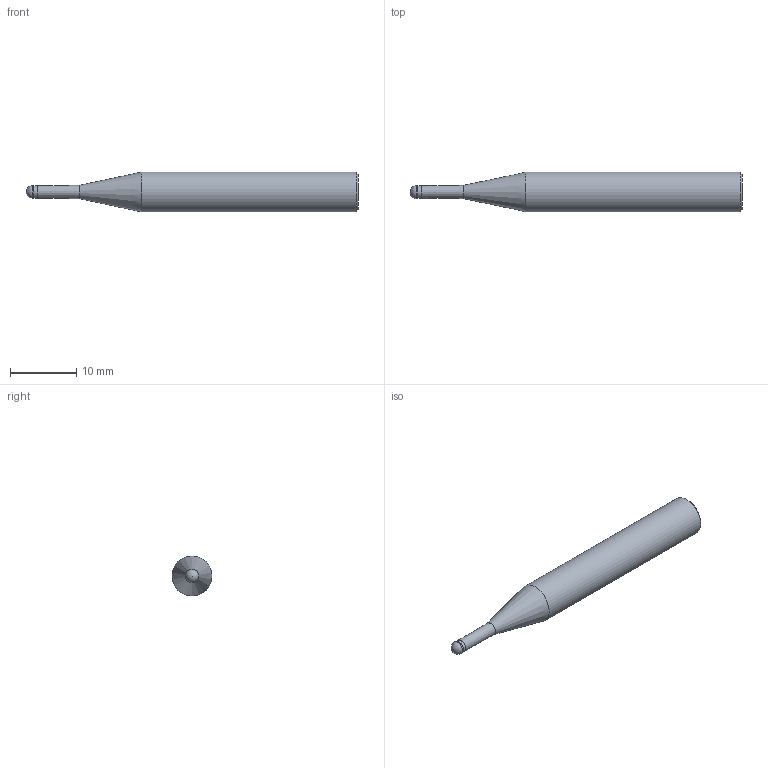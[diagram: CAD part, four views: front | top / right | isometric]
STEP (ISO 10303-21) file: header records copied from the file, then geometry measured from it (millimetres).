
FILE_DESCRIPTION(/* description */ (''),/* implementation_level */ '2;1');
FILE_NAME(/* name */ 'HGXPB2020-8-T0.4 0650.stp',/* time_stamp */ '2026-01-22T09:01:48+08:00',/* author */ (''),/* organization */ (''),/* preprocessor_version */ 'ST-DEVELOPER v16',/* originating_system */ 'SIEMENS PLM Software NX 10.0',/* authorisation */ '');
FILE_SCHEMA (('CONFIG_CONTROL_DESIGN'));
Length unit declared in the file: millimetre
Products named in the file (1): HGXPB2020-8-T0.4 0650_x_t
Bounding box: 50 x 6 x 6 mm (x, y, z)
Volume: 1070.9 mm3; surface area: 809 mm2
Topology: 1 solids, 1 shells, 9 faces, 17 edges, 10 vertices
Faces by surface type: cylinder 3, cone 3, plane 2, sphere 1
Full cylindrical faces by diameter (mm): 1.9 x1, 2 x1, 6 x1
Entity records: 258 total; most frequent: DIRECTION 36, CARTESIAN_POINT 26, AXIS2_PLACEMENT_3D 18, EDGE_LOOP 16, ORIENTED_EDGE 16, FACE_BOUND 14, ADVANCED_FACE 9, VERTEX_POINT 8
